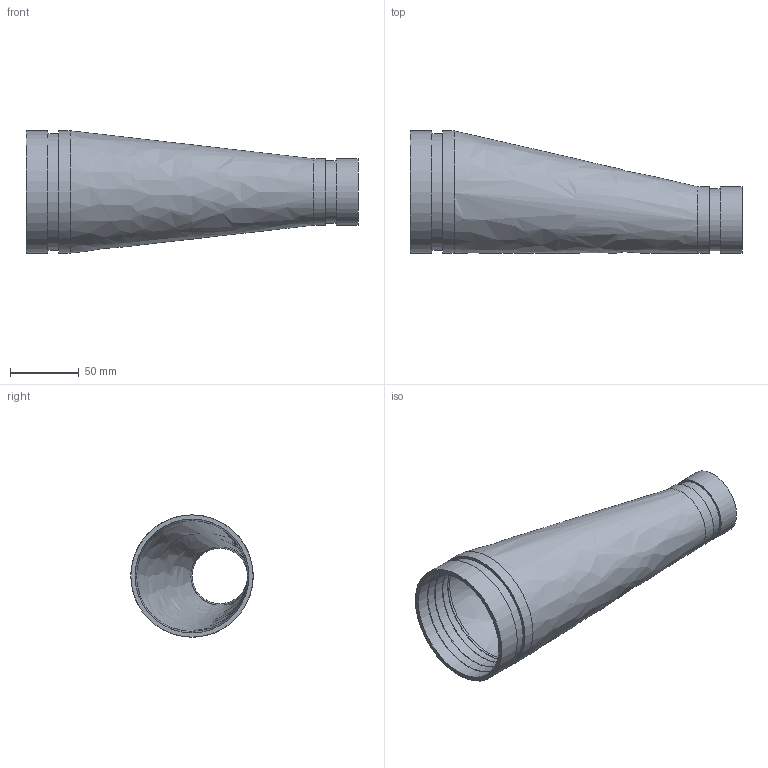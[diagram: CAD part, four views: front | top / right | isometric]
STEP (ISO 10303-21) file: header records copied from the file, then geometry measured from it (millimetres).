
FILE_DESCRIPTION(/* description */ ('VIC REDUCER ECCENTRIC No 451H-SS','CAx-IF Rec.Pracs.---Representation and Presentation of Product Manufacturing Information (PMI)---4.0---2014-10-13'),/* implementation_level */ '2;1');
FILE_NAME(/* name */ 'C:\Users\kkamble\AppData\Roaming\Autodesk\ApplicationPlugins\Back Up\Victaulic_SS-OGS_Reducer Eccentric_Sched 40S_No 451H SS (OGS)\Victaulic_SS-OGS_Reducer Eccentric_Sched 40S_No 451H SS (OGS)_03.0x01.5 (80x40).stp',/* time_stamp */ '2020-08-25T18:05:36+06:00',/* author */ ('CORINNE GRAY'),/* organization */ ('Victaulic'),/* preprocessor_version */ 'ST-DEVELOPER v17.2',/* originating_system */ 'Autodesk Inventor 2019',/* authorisation */ '');
FILE_SCHEMA (('AP242_MANAGED_MODEL_BASED_3D_ENGINEERING_MIM_LF { 1 0 10303 442 1 1 4 }'));
Length unit declared in the file: inch
Products named in the file (1): 451H SS-03.0x01.5
Bounding box: 241.3 x 88.9 x 88.9 mm (x, y, z)
Volume: 146405.5 mm3; surface area: 102715 mm2
Topology: 1 solids, 1 shells, 32 faces, 111 edges, 85 vertices
Faces by surface type: cylinder 12, torus 8, plane 6, cone 4, bspline 2
Full cylindrical faces by diameter (mm): 40.259 x1, 42.672 x2, 45.085 x1, 48.26 x2, 80.67 x1, 82.804 x2, 84.938 x1, 88.9 x2
Entity records: 1504 total; most frequent: DIRECTION 290, CARTESIAN_POINT 282, ORIENTED_EDGE 222, AXIS2_PLACEMENT_3D 137, EDGE_CURVE 111, CIRCLE 93, VERTEX_POINT 85, EDGE_LOOP 38
